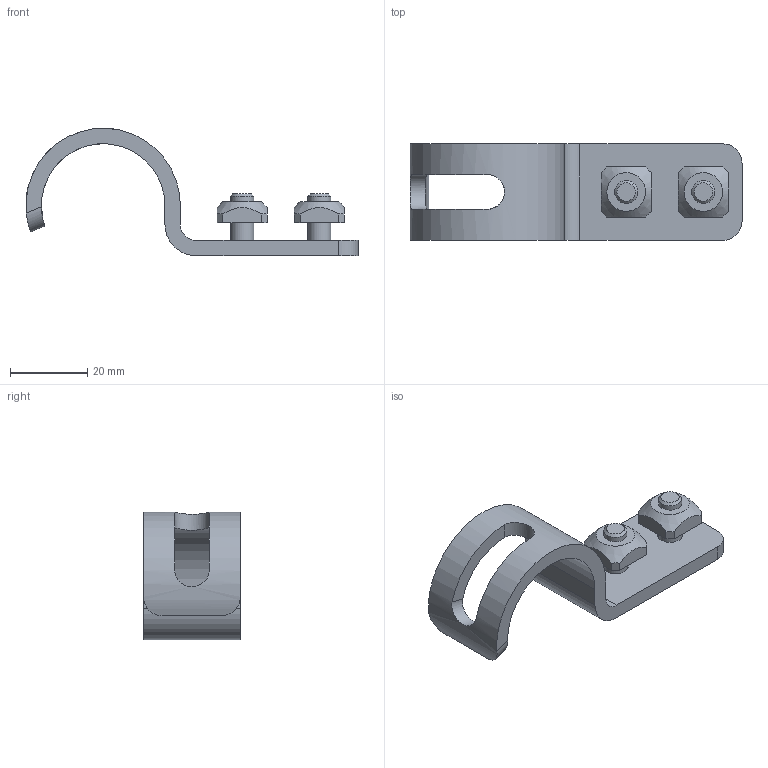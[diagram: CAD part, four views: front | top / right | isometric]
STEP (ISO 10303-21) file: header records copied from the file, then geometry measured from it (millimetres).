
FILE_DESCRIPTION((''),'2;1');
FILE_NAME('C:\Andys Backup Data\WEBSITE\DREAMWEAVER\MiniTec\Products\KanBan\CAD\Step\21.0005 CATCH 32 FOR HANDLE PROFILE.stp','2013-04-02T11:22:51',('Admin'),(''),'Autodesk Inventor 2012','Autodesk Inventor 2012','');
FILE_SCHEMA(('AUTOMOTIVE_DESIGN { 1 0 10303 214 1 1 1 1 }'));
Length unit declared in the file: millimetre
Products named in the file (1): 21.0005 CATCH 32 FOR HANDLE PROFILE
Bounding box: 85.99 x 25 x 33 mm (x, y, z)
Volume: 12540.7 mm3; surface area: 8439.4 mm2
Topology: 1 solids, 1 shells, 76 faces, 190 edges, 126 vertices
Faces by surface type: plane 48, cylinder 18, cone 10
Full cylindrical faces by diameter (mm): 6 x4, 6.6 x2, 12 x2
Entity records: 2339 total; most frequent: CARTESIAN_POINT 593, DIRECTION 330, ORIENTED_EDGE 324, EDGE_CURVE 162, AXIS2_PLACEMENT_3D 117, VERTEX_POINT 116, EDGE_LOOP 106, VECTOR 96
